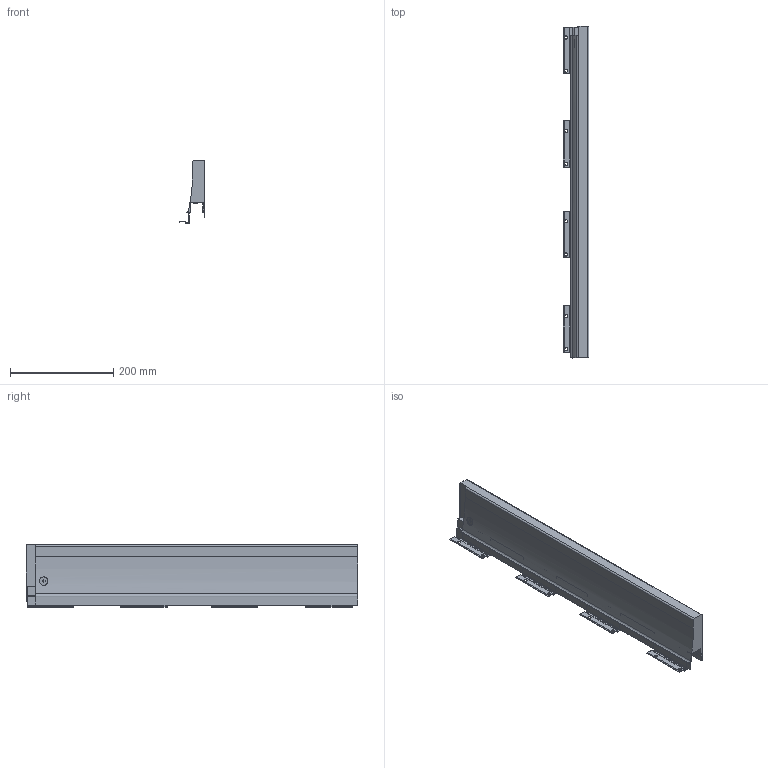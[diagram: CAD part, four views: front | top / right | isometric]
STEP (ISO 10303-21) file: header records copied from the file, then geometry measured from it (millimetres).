
FILE_DESCRIPTION (( 'STEP AP214' ), '1' );
FILE_NAME ('_XP Agantis Dekorseite H127 NL650 RE.step', '2010-07-08T06:22:11', ( 'grass' ), ( '' ), 'SwSTEP 2.0', 'SolidWorks 2010', '' );
FILE_SCHEMA (( 'AUTOMOTIVE_DESIGN' ));
Length unit declared in the file: millimetre
Products named in the file (1): _XP Agantis Dekorseite H127 NL650 RE
Bounding box: 50.01 x 641.5 x 121.5 mm (x, y, z)
Volume: 1403193.8 mm3; surface area: 257234.8 mm2
Topology: 1 solids, 1 shells, 175 faces, 511 edges, 333 vertices
Faces by surface type: plane 142, cylinder 33
Entity records: 5871 total; most frequent: CARTESIAN_POINT 1107, ORIENTED_EDGE 1022, DIRECTION 926, EDGE_CURVE 511, LINE 444, VECTOR 444, VERTEX_POINT 333, AXIS2_PLACEMENT_3D 241
